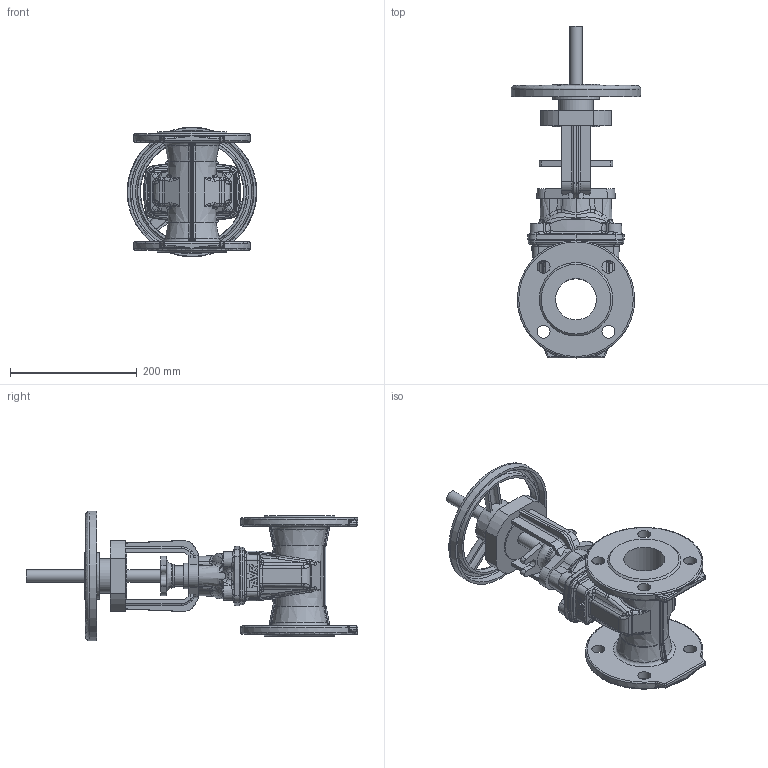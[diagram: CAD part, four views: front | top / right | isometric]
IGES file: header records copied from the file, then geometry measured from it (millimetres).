
Start section: SolidWorks IGES file using analytic representation for surfaces
Global section: file name: \\avksan2\techshare\PBM outline export from Enovia\O_21_34_DN065_41XXXXX open_AA0.igs; native system: SolidWorks 2012; preprocessor: SolidWorks 2012; author: pbm; date: 200212.095945; units: millimetre
Bounding box: 204.98 x 524.4 x 204.98 mm (x, y, z)
Surface area: 414422.8 mm2 (no closed solid volume)
Topology: 0 solids, 0 shells, 872 faces, 4420 edges, 4336 vertices
Faces by surface type: bspline 501, revolution 371
